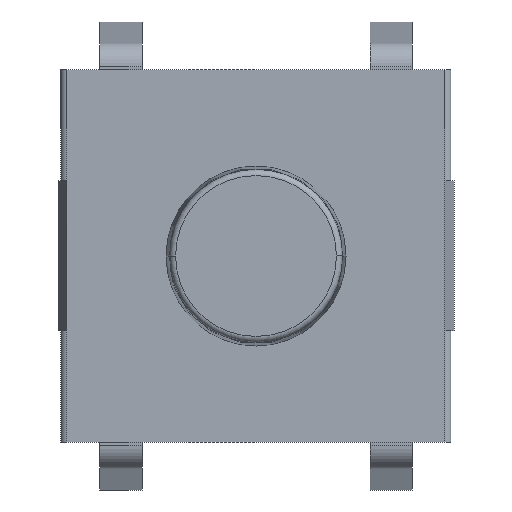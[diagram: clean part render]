
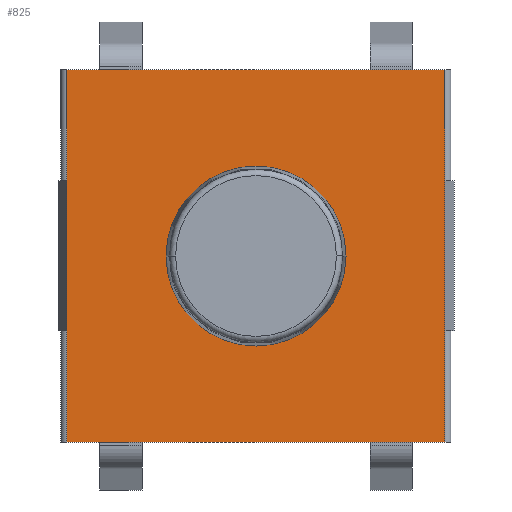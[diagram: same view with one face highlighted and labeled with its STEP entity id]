
A CAD part, front view. The second image highlights one B-rep face of the part: STEP entity #825.
In plain terms, the highlighted planar face has unit normal (0, -1, 0).
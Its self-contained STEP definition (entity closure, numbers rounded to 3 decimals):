
#224=CARTESIAN_POINT('',(0.,-0.1,0.));
#225=DIRECTION('',(0.,1.,0.));
#226=DIRECTION('',(-1.,0.,0.));
#227=AXIS2_PLACEMENT_3D('',#224,#225,#226);
#229=CARTESIAN_POINT('',(0.,-0.1,0.));
#230=DIRECTION('',(0.,1.,0.));
#231=DIRECTION('',(1.,0.,0.));
#232=AXIS2_PLACEMENT_3D('',#229,#230,#231);
#234=DIRECTION('',(1.,0.,0.));
#235=VECTOR('',#234,6.3);
#236=CARTESIAN_POINT('',(-3.15,-0.1,-3.1));
#237=LINE('',#236,#235);
#238=DIRECTION('',(-1.,0.,0.));
#239=VECTOR('',#238,6.3);
#240=CARTESIAN_POINT('',(3.15,-0.1,3.1));
#241=LINE('',#240,#239);
#242=DIRECTION('',(0.,0.,-1.));
#243=VECTOR('',#242,1.85);
#244=CARTESIAN_POINT('',(3.15,-0.1,3.1));
#245=LINE('',#244,#243);
#260=DIRECTION('',(0.,0.,-1.));
#261=VECTOR('',#260,1.85);
#262=CARTESIAN_POINT('',(3.15,-0.1,-1.25));
#263=LINE('',#262,#261);
#290=DIRECTION('',(0.,0.,-1.));
#291=VECTOR('',#290,2.5);
#292=CARTESIAN_POINT('',(3.15,-0.1,1.25));
#293=LINE('',#292,#291);
#338=DIRECTION('',(0.,0.,1.));
#339=VECTOR('',#338,1.85);
#340=CARTESIAN_POINT('',(-3.15,-0.1,1.25));
#341=LINE('',#340,#339);
#356=DIRECTION('',(0.,0.,1.));
#357=VECTOR('',#356,1.85);
#358=CARTESIAN_POINT('',(-3.15,-0.1,-3.1));
#359=LINE('',#358,#357);
#402=DIRECTION('',(0.,0.,1.));
#403=VECTOR('',#402,2.5);
#404=CARTESIAN_POINT('',(-3.15,-0.1,-1.25));
#405=LINE('',#404,#403);
#414=CARTESIAN_POINT('',(-1.5,-0.1,0.));
#415=CARTESIAN_POINT('',(1.5,-0.1,0.));
#416=VERTEX_POINT('',#414);
#417=VERTEX_POINT('',#415);
#430=CARTESIAN_POINT('',(-3.15,-0.1,-3.1));
#431=CARTESIAN_POINT('',(3.15,-0.1,-3.1));
#432=VERTEX_POINT('',#430);
#433=VERTEX_POINT('',#431);
#434=CARTESIAN_POINT('',(3.15,-0.1,3.1));
#435=CARTESIAN_POINT('',(-3.15,-0.1,3.1));
#436=VERTEX_POINT('',#434);
#437=VERTEX_POINT('',#435);
#474=CARTESIAN_POINT('',(-3.15,-0.1,1.25));
#475=VERTEX_POINT('',#474);
#476=CARTESIAN_POINT('',(3.15,-0.1,-1.25));
#477=VERTEX_POINT('',#476);
#478=CARTESIAN_POINT('',(-3.15,-0.1,-1.25));
#479=VERTEX_POINT('',#478);
#480=CARTESIAN_POINT('',(3.15,-0.1,1.25));
#481=VERTEX_POINT('',#480);
#799=CARTESIAN_POINT('',(0.,-0.1,0.));
#800=DIRECTION('',(0.,1.,0.));
#801=DIRECTION('',(1.,0.,0.));
#802=AXIS2_PLACEMENT_3D('',#799,#800,#801);
#803=PLANE('',#802);
#805=ORIENTED_EDGE('',*,*,#804,.T.);
#807=ORIENTED_EDGE('',*,*,#806,.T.);
#809=ORIENTED_EDGE('',*,*,#808,.T.);
#811=ORIENTED_EDGE('',*,*,#810,.F.);
#813=ORIENTED_EDGE('',*,*,#812,.T.);
#815=ORIENTED_EDGE('',*,*,#814,.T.);
#817=ORIENTED_EDGE('',*,*,#816,.T.);
#818=ORIENTED_EDGE('',*,*,#617,.F.);
#819=EDGE_LOOP('',(#805,#807,#809,#811,#813,#815,#817,#818));
#820=FACE_OUTER_BOUND('',#819,.F.);
#821=ORIENTED_EDGE('',*,*,#779,.F.);
#822=ORIENTED_EDGE('',*,*,#793,.F.);
#823=EDGE_LOOP('',(#821,#822));
#824=FACE_BOUND('',#823,.F.);
#228=CIRCLE('',#227,1.5);
#233=CIRCLE('',#232,1.5);
#617=EDGE_CURVE('',#436,#437,#241,.T.);
#779=EDGE_CURVE('',#416,#417,#228,.T.);
#793=EDGE_CURVE('',#417,#416,#233,.T.);
#804=EDGE_CURVE('',#436,#481,#245,.T.);
#806=EDGE_CURVE('',#481,#477,#293,.T.);
#808=EDGE_CURVE('',#477,#433,#263,.T.);
#810=EDGE_CURVE('',#432,#433,#237,.T.);
#812=EDGE_CURVE('',#432,#479,#359,.T.);
#814=EDGE_CURVE('',#479,#475,#405,.T.);
#816=EDGE_CURVE('',#475,#437,#341,.T.);
#825=ADVANCED_FACE('',(#820,#824),#803,.F.);
